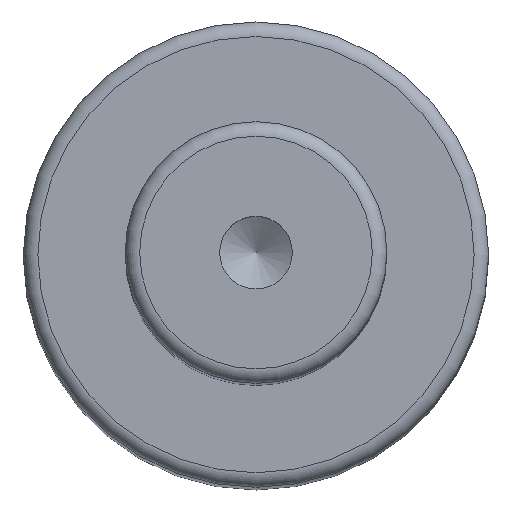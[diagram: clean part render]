
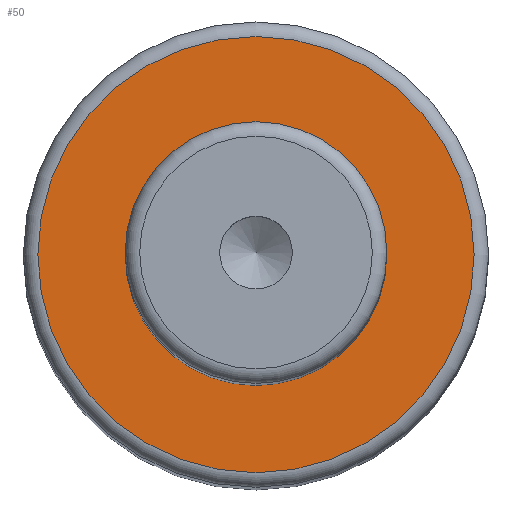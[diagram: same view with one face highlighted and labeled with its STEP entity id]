
A CAD part, top view. The second image highlights one B-rep face of the part: STEP entity #50.
In plain terms, the highlighted planar face has unit normal (0, 0, 1).
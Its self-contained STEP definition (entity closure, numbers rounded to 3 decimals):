
#40=PLANE('',#179);
#50=ADVANCED_FACE('',(#72,#73),#40,.F.);
#72=FACE_BOUND('',#96,.T.);
#73=FACE_BOUND('',#97,.T.);
#96=EDGE_LOOP('',(#118));
#97=EDGE_LOOP('',(#119));
#118=ORIENTED_EDGE('',*,*,#149,.F.);
#119=ORIENTED_EDGE('',*,*,#148,.T.);
#135=VERTEX_POINT('',#256);
#136=VERTEX_POINT('',#259);
#148=EDGE_CURVE('',#135,#135,#159,.T.);
#149=EDGE_CURVE('',#136,#136,#160,.T.);
#159=CIRCLE('',#176,9.);
#160=CIRCLE('',#178,15.);
#176=AXIS2_PLACEMENT_3D('',#255,#213,#214);
#178=AXIS2_PLACEMENT_3D('',#258,#217,#218);
#179=AXIS2_PLACEMENT_3D('',#260,#219,#220);
#213=DIRECTION('',(0.,0.,-1.));
#214=DIRECTION('',(-1.,0.,0.));
#217=DIRECTION('',(0.,0.,-1.));
#218=DIRECTION('',(-1.,0.,0.));
#219=DIRECTION('',(0.,0.,-1.));
#220=DIRECTION('',(-1.,0.,0.));
#255=CARTESIAN_POINT('',(0.,0.,109.));
#256=CARTESIAN_POINT('',(-9.,0.,109.));
#258=CARTESIAN_POINT('',(0.,0.,109.));
#259=CARTESIAN_POINT('',(-15.,0.,109.));
#260=CARTESIAN_POINT('',(9.,0.,109.));
